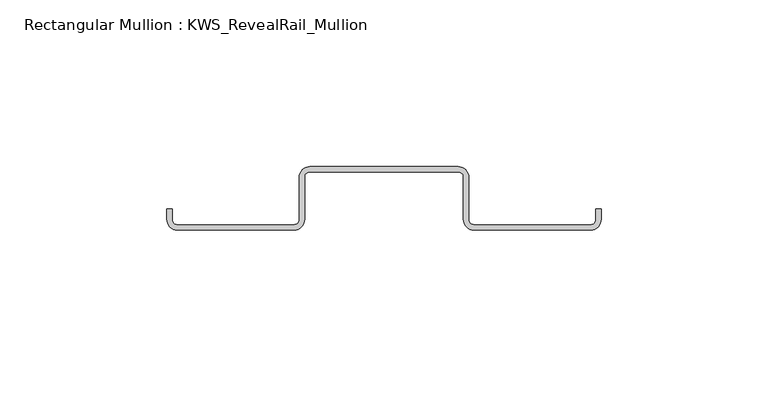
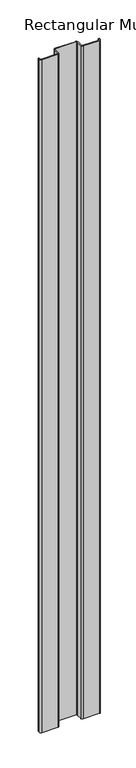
"""IFC4 building model written with IfcOpenShell, lengths in millimetres: member geometry, Rectangular Mullion : KWS_RevealRail_Mullion."""

from ifc_helpers import new_model, si_unit, point, frame, frame_2d, origin, place, context, project, spatial, polyline, circle_curve, trimmed, segment, composite_curve, outline, extrude, source, transform, mapped, element, save


def rectangular_mullion_kws_revealrail_mullion_058590ce(model_context):
    return source(origin(), model_context, "Body", "SweptSolid", [
        extrude(outline(composite_curve([segment(polyline([(-65.0875, 3.175), (-65.0875, 6.35), (-63.5, 6.35), (-63.5, 3.175)]), True, "CONTINUOUS"), segment(trimmed(circle_curve(frame_2d((-61.9125, 3.175)), 1.5875), [point((-63.5, 3.175))], [point((-61.9125, 1.5875))], True, "CARTESIAN"), True, "CONTINUOUS"), segment(polyline([(-61.9125, 1.5875), (-26.9875, 1.5875)]), True, "CONTINUOUS"), segment(trimmed(circle_curve(frame_2d((-26.9875, 3.175)), 1.5875), [point((-26.9875, 1.5875))], [point((-25.4, 3.175))], True, "CARTESIAN"), True, "CONTINUOUS"), segment(polyline([(-25.4, 3.175), (-25.4, 15.875)]), True, "CONTINUOUS"), segment(trimmed(circle_curve(frame_2d((-22.225, 15.875)), 3.175), [point((-25.4, 15.875))], [point((-22.225, 19.05))], False, "CARTESIAN"), True, "CONTINUOUS"), segment(polyline([(-22.225, 19.05), (22.225, 19.05)]), True, "CONTINUOUS"), segment(trimmed(circle_curve(frame_2d((22.225, 15.875)), 3.175), [point((22.225, 19.05))], [point((25.4, 15.875))], False, "CARTESIAN"), True, "CONTINUOUS"), segment(polyline([(25.4, 15.875), (25.4, 3.175)]), True, "CONTINUOUS"), segment(trimmed(circle_curve(frame_2d((26.9875, 3.175)), 1.5875), [point((25.4, 3.175))], [point((26.9875, 1.5875))], True, "CARTESIAN"), True, "CONTINUOUS"), segment(polyline([(26.9875, 1.5875), (61.9125, 1.5875)]), True, "CONTINUOUS"), segment(trimmed(circle_curve(frame_2d((61.9125, 3.175)), 1.5875), [point((61.9125, 1.5875))], [point((63.5, 3.175))], True, "CARTESIAN"), True, "CONTINUOUS"), segment(polyline([(63.5, 3.175), (63.5, 6.35), (65.0875, 6.35), (65.0875, 3.175)]), True, "CONTINUOUS"), segment(trimmed(circle_curve(frame_2d((61.9125, 3.175)), 3.175), [point((65.0875, 3.175))], [point((61.9125, 0.0))], False, "CARTESIAN"), True, "CONTINUOUS"), segment(polyline([(61.9125, 0.0), (26.9875, 0.0)]), True, "CONTINUOUS"), segment(trimmed(circle_curve(frame_2d((26.9875, 3.175)), 3.175), [point((26.9875, 0.0))], [point((23.8125, 3.175))], False, "CARTESIAN"), True, "CONTINUOUS"), segment(polyline([(23.8125, 3.175), (23.8125, 15.875)]), True, "CONTINUOUS"), segment(trimmed(circle_curve(frame_2d((22.225, 15.875)), 1.5875), [point((23.8125, 15.875))], [point((22.225, 17.4625))], True, "CARTESIAN"), True, "CONTINUOUS"), segment(polyline([(22.225, 17.4625), (-22.225, 17.4625)]), True, "CONTINUOUS"), segment(trimmed(circle_curve(frame_2d((-22.225, 15.875)), 1.5875), [point((-22.225, 17.4625))], [point((-23.8125, 15.875))], True, "CARTESIAN"), True, "CONTINUOUS"), segment(polyline([(-23.8125, 15.875), (-23.8125, 3.175)]), True, "CONTINUOUS"), segment(trimmed(circle_curve(frame_2d((-26.9875, 3.175)), 3.175), [point((-23.8125, 3.175))], [point((-26.9875, 0.0))], False, "CARTESIAN"), True, "CONTINUOUS"), segment(polyline([(-26.9875, 0.0), (-61.9125, 0.0)]), True, "CONTINUOUS"), segment(trimmed(circle_curve(frame_2d((-61.9125, 3.175)), 3.175), [point((-61.9125, 0.0))], [point((-65.0875, 3.175))], False, "CARTESIAN"), True, "CONTINUOUS")], self_intersect=False)), frame((0.0, 0.0, -1524.0000003), z_axis=(0.0, 0.0, 1.0), x_axis=(1.0, 0.0, 0.0)), (0.0, 0.0, 1.0), 1524.0000003),
    ])


if __name__ == "__main__":
    model = new_model("IFC4")
    model_context = context("Model", 3, world=origin())
    ifc_project = project(units=[si_unit("LENGTHUNIT", "METRE", prefix="MILLI")], contexts=[model_context])
    site = spatial("IfcSite", under=ifc_project)
    building = spatial("IfcBuilding", under=site)
    placement = place(None, origin())
    rectangular_mullion_kws_revealrail_mullion_shape = rectangular_mullion_kws_revealrail_mullion_058590ce(model_context)
    element("IfcMember", 1, ObjectType="Rectangular Mullion : KWS_RevealRail_Mullion", at=placement, inside=building, context=model_context, shape_type="MappedRepresentation", body=[
        mapped(rectangular_mullion_kws_revealrail_mullion_shape, transform((0.0, 0.0, 0.0), x_axis=(1.0, 0.0, 0.0), y_axis=(0.0, 1.0, 0.0), z_axis=(0.0, 0.0, 1.0))),
    ])
    save(model, "model.ifc")
